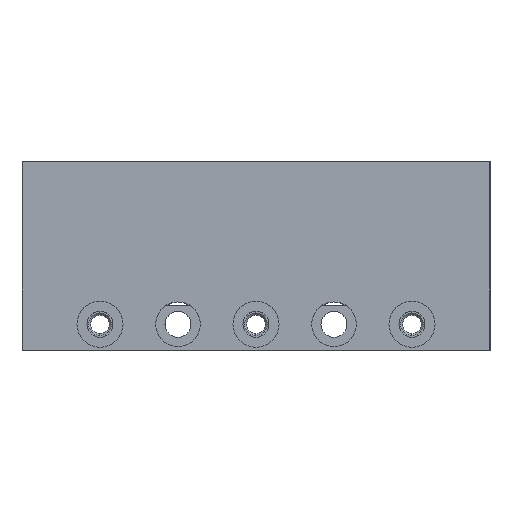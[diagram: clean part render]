
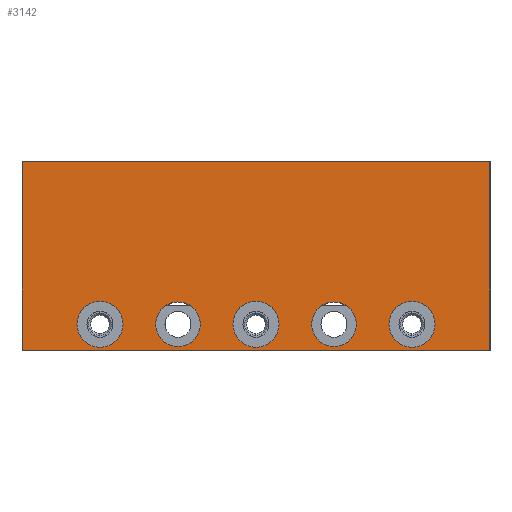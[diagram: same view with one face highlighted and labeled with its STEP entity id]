
A CAD part, top view. The second image highlights one B-rep face of the part: STEP entity #3142.
In plain terms, the highlighted planar face has unit normal (0, 0, 1).
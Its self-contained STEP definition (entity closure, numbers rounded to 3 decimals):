
#22 = CARTESIAN_POINT ( 'NONE',  ( -10.345, -12.845, 1.5 ) ) ;
#118 = LINE ( 'NONE', #8375, #8570 ) ;
#121 = AXIS2_PLACEMENT_3D ( 'NONE', #5638, #4737, #9530 ) ;
#252 = FACE_BOUND ( 'NONE', #6878, .T. ) ;
#423 = CARTESIAN_POINT ( 'NONE',  ( 21.155, -0.145, 1.5 ) ) ;
#557 = CARTESIAN_POINT ( 'NONE',  ( 13.655, -9.345, 1.5 ) ) ;
#601 = EDGE_CURVE ( 'NONE', #8462, #8373, #11667, .T. ) ;
#622 = ORIENTED_EDGE ( 'NONE', *, *, #5513, .F. ) ;
#645 = AXIS2_PLACEMENT_3D ( 'NONE', #10427, #8294, #11426 ) ;
#704 = EDGE_CURVE ( 'NONE', #6023, #4192, #12130, .T. ) ;
#767 = ORIENTED_EDGE ( 'NONE', *, *, #3347, .F. ) ;
#953 = DIRECTION ( 'NONE',  ( 0., 0., 1. ) ) ;
#1089 = CIRCLE ( 'NONE', #4277, 3.1 ) ;
#1178 = FACE_BOUND ( 'NONE', #6948, .T. ) ;
#1297 = EDGE_CURVE ( 'NONE', #4192, #4811, #7879, .T. ) ;
#1417 = VECTOR ( 'NONE', #5077, 1000. ) ;
#1606 = CARTESIAN_POINT ( 'NONE',  ( 39.055, -9.345, 1.5 ) ) ;
#1684 = CIRCLE ( 'NONE', #9497, 3. ) ;
#1737 = CARTESIAN_POINT ( 'NONE',  ( 0.155, -9.345, 1.5 ) ) ;
#1745 = DIRECTION ( 'NONE',  ( 0., 0., 1. ) ) ;
#1872 = CIRCLE ( 'NONE', #8736, 3.1 ) ;
#1915 = CARTESIAN_POINT ( 'NONE',  ( 21.155, -9.345, 1.5 ) ) ;
#2227 = CARTESIAN_POINT ( 'NONE',  ( 52.655, 12.555, 1.5 ) ) ;
#2337 = DIRECTION ( 'NONE',  ( 0., 0., 1. ) ) ;
#2414 = CARTESIAN_POINT ( 'NONE',  ( 3.255, -9.345, 1.5 ) ) ;
#2696 = VECTOR ( 'NONE', #8099, 1000. ) ;
#2720 = EDGE_LOOP ( 'NONE', ( #10633, #5134 ) ) ;
#2729 = VERTEX_POINT ( 'NONE', #2414 ) ;
#2757 = DIRECTION ( 'NONE',  ( 1., 0., 0. ) ) ;
#2784 = CARTESIAN_POINT ( 'NONE',  ( 7.655, -9.345, 1.5 ) ) ;
#2931 = CARTESIAN_POINT ( 'NONE',  ( -2.945, -9.345, 1.5 ) ) ;
#2937 = VERTEX_POINT ( 'NONE', #557 ) ;
#3086 = DIRECTION ( 'NONE',  ( 0., 0., 1. ) ) ;
#3142 = ADVANCED_FACE ( 'NONE', ( #6105, #1178, #10570, #252, #9949, #7324 ), #7262, .T. ) ;
#3347 = EDGE_CURVE ( 'NONE', #4650, #9922, #11179, .T. ) ;
#3407 = DIRECTION ( 'NONE',  ( 1., 0., 0. ) ) ;
#3671 = DIRECTION ( 'NONE',  ( -1., 0., 0. ) ) ;
#3741 = ORIENTED_EDGE ( 'NONE', *, *, #11106, .F. ) ;
#3810 = DIRECTION ( 'NONE',  ( 0., -1., 0. ) ) ;
#3940 = EDGE_CURVE ( 'NONE', #4025, #9797, #5293, .T. ) ;
#3962 = VECTOR ( 'NONE', #3810, 1000. ) ;
#4025 = VERTEX_POINT ( 'NONE', #7529 ) ;
#4192 = VERTEX_POINT ( 'NONE', #22 ) ;
#4277 = AXIS2_PLACEMENT_3D ( 'NONE', #8275, #10233, #7293 ) ;
#4408 = ORIENTED_EDGE ( 'NONE', *, *, #601, .F. ) ;
#4650 = VERTEX_POINT ( 'NONE', #12006 ) ;
#4715 = DIRECTION ( 'NONE',  ( 1., 0., 0. ) ) ;
#4737 = DIRECTION ( 'NONE',  ( 0., 0., 1. ) ) ;
#4746 = EDGE_CURVE ( 'NONE', #9797, #4025, #1089, .T. ) ;
#4811 = VERTEX_POINT ( 'NONE', #11229 ) ;
#5077 = DIRECTION ( 'NONE',  ( 0., 1., 0. ) ) ;
#5134 = ORIENTED_EDGE ( 'NONE', *, *, #6551, .F. ) ;
#5283 = CARTESIAN_POINT ( 'NONE',  ( 31.655, -9.345, 1.5 ) ) ;
#5293 = CIRCLE ( 'NONE', #5326, 3.1 ) ;
#5326 = AXIS2_PLACEMENT_3D ( 'NONE', #9516, #9555, #10524 ) ;
#5344 = EDGE_CURVE ( 'NONE', #10649, #2729, #5370, .T. ) ;
#5370 = CIRCLE ( 'NONE', #645, 3.1 ) ;
#5513 = EDGE_CURVE ( 'NONE', #2729, #10649, #6118, .T. ) ;
#5638 = CARTESIAN_POINT ( 'NONE',  ( 31.655, -9.345, 1.5 ) ) ;
#5667 = EDGE_CURVE ( 'NONE', #9922, #4650, #6865, .T. ) ;
#5774 = CARTESIAN_POINT ( 'NONE',  ( 28.655, -9.345, 1.5 ) ) ;
#6023 = VERTEX_POINT ( 'NONE', #8947 ) ;
#6084 = ORIENTED_EDGE ( 'NONE', *, *, #5667, .F. ) ;
#6105 = FACE_BOUND ( 'NONE', #2720, .T. ) ;
#6118 = CIRCLE ( 'NONE', #8229, 3.1 ) ;
#6323 = VERTEX_POINT ( 'NONE', #2784 ) ;
#6452 = ORIENTED_EDGE ( 'NONE', *, *, #8849, .T. ) ;
#6551 = EDGE_CURVE ( 'NONE', #6323, #2937, #7436, .T. ) ;
#6589 = CARTESIAN_POINT ( 'NONE',  ( 52.655, 12.555, 1.5 ) ) ;
#6642 = ORIENTED_EDGE ( 'NONE', *, *, #3940, .F. ) ;
#6814 = DIRECTION ( 'NONE',  ( 1., 0., 0. ) ) ;
#6865 = CIRCLE ( 'NONE', #9375, 3. ) ;
#6878 = EDGE_LOOP ( 'NONE', ( #6642, #7893 ) ) ;
#6948 = EDGE_LOOP ( 'NONE', ( #767, #6084 ) ) ;
#7262 = PLANE ( 'NONE',  #8518 ) ;
#7293 = DIRECTION ( 'NONE',  ( 1., 0., 0. ) ) ;
#7324 = FACE_BOUND ( 'NONE', #7433, .T. ) ;
#7433 = EDGE_LOOP ( 'NONE', ( #622, #10973 ) ) ;
#7436 = CIRCLE ( 'NONE', #9986, 3. ) ;
#7529 = CARTESIAN_POINT ( 'NONE',  ( 45.255, -9.345, 1.5 ) ) ;
#7679 = CARTESIAN_POINT ( 'NONE',  ( -10.345, 12.555, 1.5 ) ) ;
#7721 = CARTESIAN_POINT ( 'NONE',  ( 21.155, -9.345, 1.5 ) ) ;
#7879 = LINE ( 'NONE', #10177, #2696 ) ;
#7893 = ORIENTED_EDGE ( 'NONE', *, *, #4746, .F. ) ;
#8099 = DIRECTION ( 'NONE',  ( 1., 0., 0. ) ) ;
#8229 = AXIS2_PLACEMENT_3D ( 'NONE', #1737, #8593, #4715 ) ;
#8275 = CARTESIAN_POINT ( 'NONE',  ( 42.155, -9.345, 1.5 ) ) ;
#8294 = DIRECTION ( 'NONE',  ( 0., 0., 1. ) ) ;
#8373 = VERTEX_POINT ( 'NONE', #11136 ) ;
#8375 = CARTESIAN_POINT ( 'NONE',  ( -10.345, 12.555, 1.5 ) ) ;
#8462 = VERTEX_POINT ( 'NONE', #9128 ) ;
#8492 = EDGE_LOOP ( 'NONE', ( #4408, #3741 ) ) ;
#8518 = AXIS2_PLACEMENT_3D ( 'NONE', #423, #10122, #3407 ) ;
#8570 = VECTOR ( 'NONE', #3671, 1000. ) ;
#8593 = DIRECTION ( 'NONE',  ( 0., 0., 1. ) ) ;
#8625 = LINE ( 'NONE', #2227, #1417 ) ;
#8736 = AXIS2_PLACEMENT_3D ( 'NONE', #1915, #953, #10760 ) ;
#8849 = EDGE_CURVE ( 'NONE', #4811, #9408, #8625, .T. ) ;
#8947 = CARTESIAN_POINT ( 'NONE',  ( -10.345, 12.555, 1.5 ) ) ;
#8982 = CARTESIAN_POINT ( 'NONE',  ( 10.655, -9.345, 1.5 ) ) ;
#9128 = CARTESIAN_POINT ( 'NONE',  ( 24.255, -9.345, 1.5 ) ) ;
#9375 = AXIS2_PLACEMENT_3D ( 'NONE', #5283, #2337, #12164 ) ;
#9408 = VERTEX_POINT ( 'NONE', #6589 ) ;
#9497 = AXIS2_PLACEMENT_3D ( 'NONE', #8982, #3086, #10023 ) ;
#9516 = CARTESIAN_POINT ( 'NONE',  ( 42.155, -9.345, 1.5 ) ) ;
#9530 = DIRECTION ( 'NONE',  ( 1., 0., 0. ) ) ;
#9555 = DIRECTION ( 'NONE',  ( 0., 0., 1. ) ) ;
#9797 = VERTEX_POINT ( 'NONE', #1606 ) ;
#9922 = VERTEX_POINT ( 'NONE', #5774 ) ;
#9949 = FACE_OUTER_BOUND ( 'NONE', #10704, .T. ) ;
#9986 = AXIS2_PLACEMENT_3D ( 'NONE', #11659, #12700, #6814 ) ;
#10023 = DIRECTION ( 'NONE',  ( 1., 0., 0. ) ) ;
#10122 = DIRECTION ( 'NONE',  ( 0., 0., 1. ) ) ;
#10177 = CARTESIAN_POINT ( 'NONE',  ( -10.345, -12.845, 1.5 ) ) ;
#10233 = DIRECTION ( 'NONE',  ( 0., 0., 1. ) ) ;
#10427 = CARTESIAN_POINT ( 'NONE',  ( 0.155, -9.345, 1.5 ) ) ;
#10499 = ORIENTED_EDGE ( 'NONE', *, *, #11991, .T. ) ;
#10524 = DIRECTION ( 'NONE',  ( 1., 0., 0. ) ) ;
#10570 = FACE_BOUND ( 'NONE', #8492, .T. ) ;
#10633 = ORIENTED_EDGE ( 'NONE', *, *, #11739, .F. ) ;
#10649 = VERTEX_POINT ( 'NONE', #2931 ) ;
#10704 = EDGE_LOOP ( 'NONE', ( #6452, #10499, #11873, #11131 ) ) ;
#10760 = DIRECTION ( 'NONE',  ( 1., 0., 0. ) ) ;
#10973 = ORIENTED_EDGE ( 'NONE', *, *, #5344, .F. ) ;
#11106 = EDGE_CURVE ( 'NONE', #8373, #8462, #1872, .T. ) ;
#11131 = ORIENTED_EDGE ( 'NONE', *, *, #1297, .T. ) ;
#11136 = CARTESIAN_POINT ( 'NONE',  ( 18.055, -9.345, 1.5 ) ) ;
#11179 = CIRCLE ( 'NONE', #121, 3. ) ;
#11229 = CARTESIAN_POINT ( 'NONE',  ( 52.655, -12.845, 1.5 ) ) ;
#11426 = DIRECTION ( 'NONE',  ( 1., 0., 0. ) ) ;
#11659 = CARTESIAN_POINT ( 'NONE',  ( 10.655, -9.345, 1.5 ) ) ;
#11667 = CIRCLE ( 'NONE', #11683, 3.1 ) ;
#11683 = AXIS2_PLACEMENT_3D ( 'NONE', #7721, #1745, #2757 ) ;
#11739 = EDGE_CURVE ( 'NONE', #2937, #6323, #1684, .T. ) ;
#11873 = ORIENTED_EDGE ( 'NONE', *, *, #704, .T. ) ;
#11991 = EDGE_CURVE ( 'NONE', #9408, #6023, #118, .T. ) ;
#12006 = CARTESIAN_POINT ( 'NONE',  ( 34.655, -9.345, 1.5 ) ) ;
#12130 = LINE ( 'NONE', #7679, #3962 ) ;
#12164 = DIRECTION ( 'NONE',  ( 1., 0., 0. ) ) ;
#12700 = DIRECTION ( 'NONE',  ( 0., 0., 1. ) ) ;
